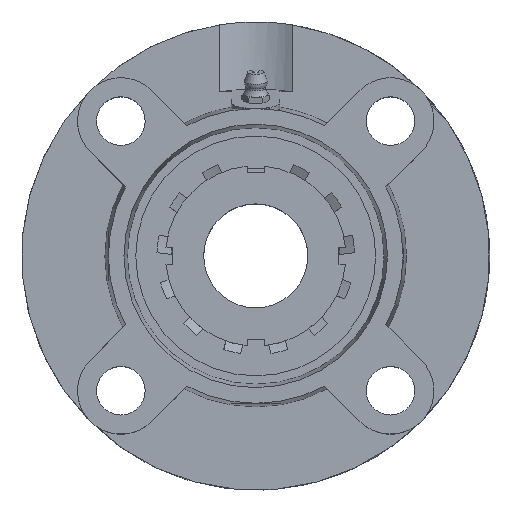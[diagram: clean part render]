
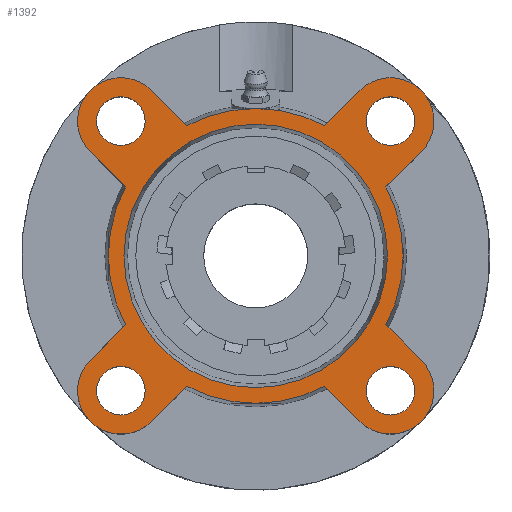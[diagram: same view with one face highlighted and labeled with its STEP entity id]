
A CAD part, top view. The second image highlights one B-rep face of the part: STEP entity #1392.
In plain terms, the highlighted planar face has unit normal (0, 0, 1).
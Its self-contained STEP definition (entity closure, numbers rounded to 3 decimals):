
#237=CARTESIAN_POINT('',(-31.891,-38.891,18.0));
#238=VERTEX_POINT('',#237);
#239=CARTESIAN_POINT('',(-38.891,-38.891,18.));
#240=DIRECTION('',(0.0,0.0,-1.0));
#241=DIRECTION('',(1.0,0.0,0.0));
#242=AXIS2_PLACEMENT_3D('',#239,#240,#241);
#243=CIRCLE('',#242,7.);
#244=EDGE_CURVE('',#238,#238,#243,.T.);
#265=CARTESIAN_POINT('',(-31.891,38.891,18.));
#266=VERTEX_POINT('',#265);
#267=CARTESIAN_POINT('',(-38.891,38.891,18.));
#268=DIRECTION('',(0.0,0.0,-1.0));
#269=DIRECTION('',(1.0,0.0,0.0));
#270=AXIS2_PLACEMENT_3D('',#267,#268,#269);
#271=CIRCLE('',#270,7.);
#272=EDGE_CURVE('',#266,#266,#271,.T.);
#293=CARTESIAN_POINT('',(45.891,38.891,18.));
#294=VERTEX_POINT('',#293);
#295=CARTESIAN_POINT('',(38.891,38.891,18.));
#296=DIRECTION('',(0.0,0.0,-1.0));
#297=DIRECTION('',(1.0,0.0,0.0));
#298=AXIS2_PLACEMENT_3D('',#295,#296,#297);
#299=CIRCLE('',#298,7.);
#300=EDGE_CURVE('',#294,#294,#299,.T.);
#321=CARTESIAN_POINT('',(45.891,-38.891,18.0));
#322=VERTEX_POINT('',#321);
#323=CARTESIAN_POINT('',(38.891,-38.891,18.));
#324=DIRECTION('',(0.0,0.0,-1.0));
#325=DIRECTION('',(1.0,0.0,0.0));
#326=AXIS2_PLACEMENT_3D('',#323,#324,#325);
#327=CIRCLE('',#326,7.);
#328=EDGE_CURVE('',#322,#322,#327,.T.);
#401=CARTESIAN_POINT('',(0.0,38.0,18.0));
#402=VERTEX_POINT('',#401);
#403=CARTESIAN_POINT('',(0.0,0.,18.));
#404=DIRECTION('',(0.0,0.0,-1.0));
#405=DIRECTION('',(0.0,1.0,0.0));
#406=AXIS2_PLACEMENT_3D('',#403,#404,#405);
#407=CIRCLE('',#406,38.);
#408=EDGE_CURVE('',#402,#402,#407,.T.);
#690=CARTESIAN_POINT('',(0.,42.5,18.));
#691=VERTEX_POINT('',#690);
#848=CARTESIAN_POINT('',(-19.884,37.562,18.));
#849=VERTEX_POINT('',#848);
#863=CARTESIAN_POINT('',(0.0,0.,18.));
#864=DIRECTION('',(0.0,0.0,1.0));
#865=DIRECTION('',(0.0,-1.0,0.0));
#866=AXIS2_PLACEMENT_3D('',#863,#864,#865);
#867=CIRCLE('',#866,42.5);
#868=EDGE_CURVE('',#691,#849,#867,.T.);
#878=CARTESIAN_POINT('',(-19.884,-37.562,18.));
#879=VERTEX_POINT('',#878);
#895=CARTESIAN_POINT('',(-30.052,-47.73,18.));
#896=VERTEX_POINT('',#895);
#897=CARTESIAN_POINT('',(-19.884,-37.562,18.));
#898=DIRECTION('',(-0.707,-0.707,0.));
#899=VECTOR('',#898,14.38);
#900=LINE('',#897,#899);
#901=EDGE_CURVE('',#879,#896,#900,.T.);
#925=CARTESIAN_POINT('',(-37.562,19.884,18.));
#926=VERTEX_POINT('',#925);
#942=CARTESIAN_POINT('',(-47.73,30.052,18.));
#943=VERTEX_POINT('',#942);
#944=CARTESIAN_POINT('',(-37.562,19.884,18.));
#945=DIRECTION('',(-0.707,0.707,0.));
#946=VECTOR('',#945,14.38);
#947=LINE('',#944,#946);
#948=EDGE_CURVE('',#926,#943,#947,.T.);
#972=CARTESIAN_POINT('',(37.562,-19.884,18.));
#973=VERTEX_POINT('',#972);
#989=CARTESIAN_POINT('',(47.73,-30.052,18.0));
#990=VERTEX_POINT('',#989);
#991=CARTESIAN_POINT('',(37.562,-19.884,18.));
#992=DIRECTION('',(0.707,-0.707,0.));
#993=VECTOR('',#992,14.38);
#994=LINE('',#991,#993);
#995=EDGE_CURVE('',#973,#990,#994,.T.);
#1019=CARTESIAN_POINT('',(19.884,37.562,18.));
#1020=VERTEX_POINT('',#1019);
#1034=CARTESIAN_POINT('',(30.052,47.73,18.));
#1035=VERTEX_POINT('',#1034);
#1036=CARTESIAN_POINT('',(19.884,37.562,18.));
#1037=DIRECTION('',(0.707,0.707,0.));
#1038=VECTOR('',#1037,14.38);
#1039=LINE('',#1036,#1038);
#1040=EDGE_CURVE('',#1020,#1035,#1039,.T.);
#1059=CARTESIAN_POINT('',(37.562,19.884,18.));
#1060=VERTEX_POINT('',#1059);
#1082=CARTESIAN_POINT('',(47.73,30.052,18.));
#1083=VERTEX_POINT('',#1082);
#1090=CARTESIAN_POINT('',(47.73,30.052,18.));
#1091=DIRECTION('',(-0.707,-0.707,0.));
#1092=VECTOR('',#1091,14.38);
#1093=LINE('',#1090,#1092);
#1094=EDGE_CURVE('',#1083,#1060,#1093,.T.);
#1104=CARTESIAN_POINT('',(-47.73,-30.052,18.0));
#1105=VERTEX_POINT('',#1104);
#1106=CARTESIAN_POINT('',(-38.891,-38.891,18.));
#1107=DIRECTION('',(0.0,0.0,-1.0));
#1108=DIRECTION('',(-0.707,0.707,0.0));
#1109=AXIS2_PLACEMENT_3D('',#1106,#1107,#1108);
#1110=CIRCLE('',#1109,12.5);
#1111=EDGE_CURVE('',#896,#1105,#1110,.T.);
#1146=CARTESIAN_POINT('',(-37.562,-19.884,18.));
#1147=VERTEX_POINT('',#1146);
#1168=CARTESIAN_POINT('',(-47.73,-30.052,18.0));
#1169=DIRECTION('',(0.707,0.707,0.));
#1170=VECTOR('',#1169,14.38);
#1171=LINE('',#1168,#1170);
#1172=EDGE_CURVE('',#1105,#1147,#1171,.T.);
#1182=CARTESIAN_POINT('',(-30.052,47.73,18.));
#1183=VERTEX_POINT('',#1182);
#1184=CARTESIAN_POINT('',(-38.891,38.891,18.));
#1185=DIRECTION('',(0.0,0.0,-1.0));
#1186=DIRECTION('',(0.707,0.707,0.0));
#1187=AXIS2_PLACEMENT_3D('',#1184,#1185,#1186);
#1188=CIRCLE('',#1187,12.5);
#1189=EDGE_CURVE('',#943,#1183,#1188,.T.);
#1217=CARTESIAN_POINT('',(-30.052,47.73,18.));
#1218=DIRECTION('',(0.707,-0.707,0.));
#1219=VECTOR('',#1218,14.38);
#1220=LINE('',#1217,#1219);
#1221=EDGE_CURVE('',#1183,#849,#1220,.T.);
#1231=CARTESIAN_POINT('',(30.052,-47.73,18.));
#1232=VERTEX_POINT('',#1231);
#1233=CARTESIAN_POINT('',(38.891,-38.891,18.));
#1234=DIRECTION('',(0.0,0.0,-1.0));
#1235=DIRECTION('',(-0.707,-0.707,0.0));
#1236=AXIS2_PLACEMENT_3D('',#1233,#1234,#1235);
#1237=CIRCLE('',#1236,12.5);
#1238=EDGE_CURVE('',#990,#1232,#1237,.T.);
#1273=CARTESIAN_POINT('',(19.884,-37.562,18.0));
#1274=VERTEX_POINT('',#1273);
#1295=CARTESIAN_POINT('',(30.052,-47.73,18.));
#1296=DIRECTION('',(-0.707,0.707,0.));
#1297=VECTOR('',#1296,14.38);
#1298=LINE('',#1295,#1297);
#1299=EDGE_CURVE('',#1232,#1274,#1298,.T.);
#1309=CARTESIAN_POINT('',(38.891,38.891,18.));
#1310=DIRECTION('',(0.0,0.0,-1.0));
#1311=DIRECTION('',(0.707,-0.707,0.0));
#1312=AXIS2_PLACEMENT_3D('',#1309,#1310,#1311);
#1313=CIRCLE('',#1312,12.5);
#1314=EDGE_CURVE('',#1035,#1083,#1313,.T.);
#1329=CARTESIAN_POINT('',(0.0,-21.25,18.));
#1330=DIRECTION('',(0.0,0.0,1.0));
#1331=DIRECTION('',(1.0,0.0,0.0));
#1332=AXIS2_PLACEMENT_3D('',#1329,#1330,#1331);
#1333=PLANE('',#1332);
#1334=CARTESIAN_POINT('',(0.0,0.,18.));
#1335=DIRECTION('',(0.0,0.0,1.0));
#1336=DIRECTION('',(0.0,-1.0,0.0));
#1337=AXIS2_PLACEMENT_3D('',#1334,#1335,#1336);
#1338=CIRCLE('',#1337,42.5);
#1339=EDGE_CURVE('',#879,#1274,#1338,.T.);
#1340=ORIENTED_EDGE('',*,*,#1339,.T.);
#1341=ORIENTED_EDGE('',*,*,#1299,.F.);
#1342=ORIENTED_EDGE('',*,*,#1238,.F.);
#1343=ORIENTED_EDGE('',*,*,#995,.F.);
#1344=CARTESIAN_POINT('',(0.0,0.,18.));
#1345=DIRECTION('',(0.0,0.0,1.0));
#1346=DIRECTION('',(0.0,-1.0,0.0));
#1347=AXIS2_PLACEMENT_3D('',#1344,#1345,#1346);
#1348=CIRCLE('',#1347,42.5);
#1349=EDGE_CURVE('',#973,#1060,#1348,.T.);
#1350=ORIENTED_EDGE('',*,*,#1349,.T.);
#1351=ORIENTED_EDGE('',*,*,#1094,.F.);
#1352=ORIENTED_EDGE('',*,*,#1314,.F.);
#1353=ORIENTED_EDGE('',*,*,#1040,.F.);
#1354=CARTESIAN_POINT('',(0.0,0.,18.));
#1355=DIRECTION('',(0.0,0.0,1.0));
#1356=DIRECTION('',(0.0,-1.0,0.0));
#1357=AXIS2_PLACEMENT_3D('',#1354,#1355,#1356);
#1358=CIRCLE('',#1357,42.5);
#1359=EDGE_CURVE('',#1020,#691,#1358,.T.);
#1360=ORIENTED_EDGE('',*,*,#1359,.T.);
#1361=ORIENTED_EDGE('',*,*,#868,.T.);
#1362=ORIENTED_EDGE('',*,*,#1221,.F.);
#1363=ORIENTED_EDGE('',*,*,#1189,.F.);
#1364=ORIENTED_EDGE('',*,*,#948,.F.);
#1365=CARTESIAN_POINT('',(0.0,0.,18.));
#1366=DIRECTION('',(0.0,0.0,1.0));
#1367=DIRECTION('',(0.0,-1.0,0.0));
#1368=AXIS2_PLACEMENT_3D('',#1365,#1366,#1367);
#1369=CIRCLE('',#1368,42.5);
#1370=EDGE_CURVE('',#926,#1147,#1369,.T.);
#1371=ORIENTED_EDGE('',*,*,#1370,.T.);
#1372=ORIENTED_EDGE('',*,*,#1172,.F.);
#1373=ORIENTED_EDGE('',*,*,#1111,.F.);
#1374=ORIENTED_EDGE('',*,*,#901,.F.);
#1375=EDGE_LOOP('',(#1340,#1341,#1342,#1343,#1350,#1351,#1352,#1353,#1360,#1361,#1362,#1363,#1364,#1371,#1372,#1373,#1374));
#1376=FACE_OUTER_BOUND('',#1375,.T.);
#1377=ORIENTED_EDGE('',*,*,#244,.T.);
#1378=EDGE_LOOP('',(#1377));
#1379=FACE_BOUND('',#1378,.T.);
#1380=ORIENTED_EDGE('',*,*,#272,.T.);
#1381=EDGE_LOOP('',(#1380));
#1382=FACE_BOUND('',#1381,.T.);
#1383=ORIENTED_EDGE('',*,*,#300,.T.);
#1384=EDGE_LOOP('',(#1383));
#1385=FACE_BOUND('',#1384,.T.);
#1386=ORIENTED_EDGE('',*,*,#328,.T.);
#1387=EDGE_LOOP('',(#1386));
#1388=FACE_BOUND('',#1387,.T.);
#1389=ORIENTED_EDGE('',*,*,#408,.T.);
#1390=EDGE_LOOP('',(#1389));
#1391=FACE_BOUND('',#1390,.T.);
#1392=ADVANCED_FACE('',(#1376,#1379,#1382,#1385,#1388,#1391),#1333,.T.);
